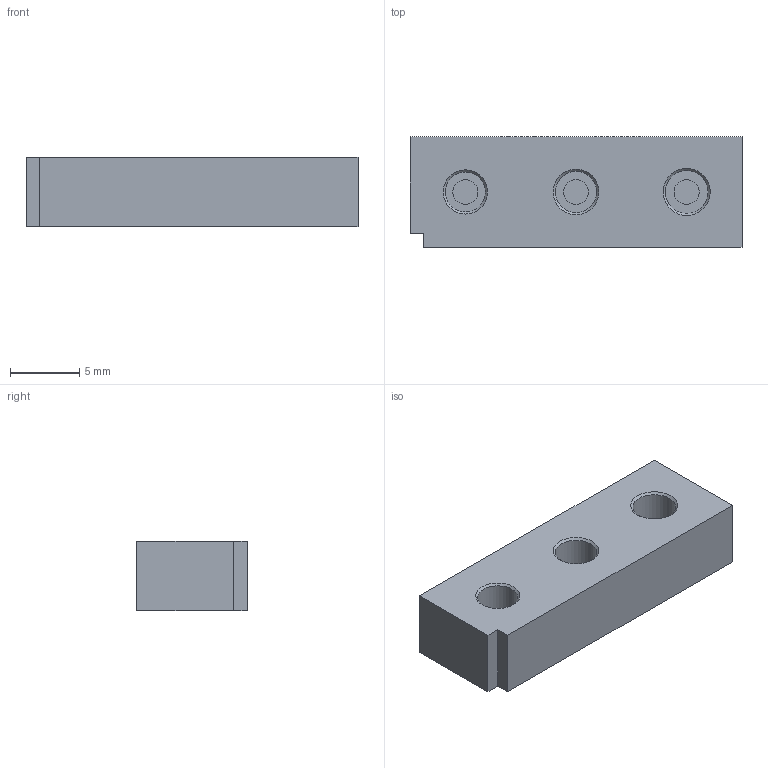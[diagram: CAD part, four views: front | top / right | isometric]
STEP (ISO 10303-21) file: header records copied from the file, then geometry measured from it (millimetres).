
FILE_DESCRIPTION(('FreeCAD Model'),'2;1');
FILE_NAME('Open CASCADE Shape Model','2026-09-23T14:25:23',('FreeCAD'),( 'FreeCAD'),'Open CASCADE STEP processor 7.8','FreeCAD','Unknown');
FILE_SCHEMA(('AUTOMOTIVE_DESIGN { 1 0 10303 214 1 1 1 1 }'));
Length unit declared in the file: millimetre
Products named in the file (1): Open CASCADE STEP translator 7.8 6
Bounding box: 24 x 8 x 5 mm (x, y, z)
Volume: 879.1 mm3; surface area: 807 mm2
Topology: 1 solids, 1 shells, 23 faces, 42 edges, 27 vertices
Faces by surface type: plane 14, cylinder 6, cone 3
Full cylindrical faces by diameter (mm): 1.8 x3, 2.9 x1, 3 x1, 3.1 x1
Entity records: 577 total; most frequent: DIRECTION 105, CARTESIAN_POINT 93, ORIENTED_EDGE 84, EDGE_CURVE 42, AXIS2_PLACEMENT_3D 39, FACE_BOUND 29, EDGE_LOOP 29, VERTEX_POINT 27
